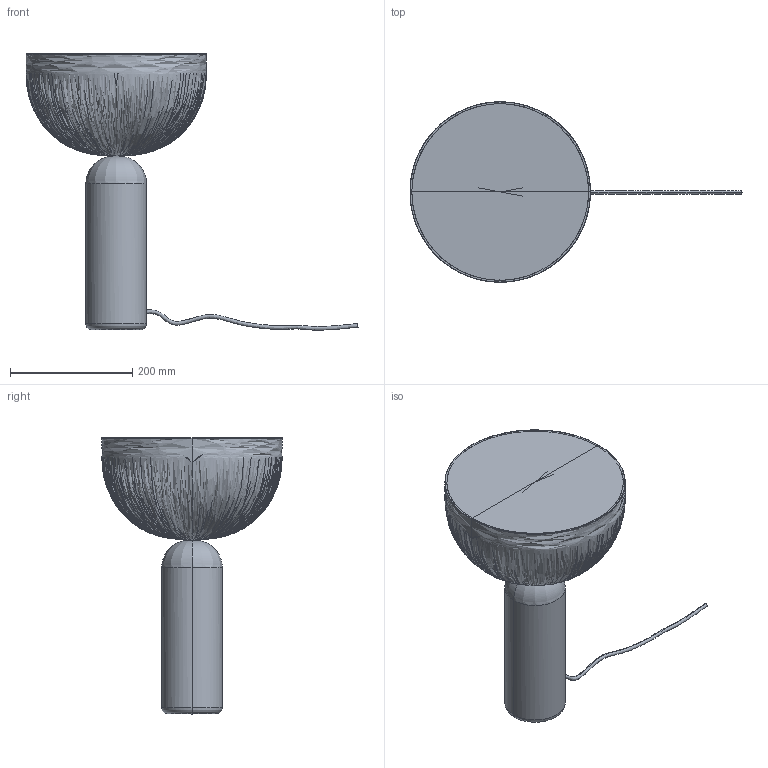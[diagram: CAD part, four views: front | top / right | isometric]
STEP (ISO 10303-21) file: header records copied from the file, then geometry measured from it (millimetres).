
FILE_DESCRIPTION(/* description */ (''),/* implementation_level */ '2;1');
FILE_NAME(/* name */ 'Kizu Table Lamp, New Works',/* time_stamp */ '2015-12-14T23:59:59+01:00',/* author */ (''),/* organization */ (''),/* preprocessor_version */ 'ST-DEVELOPER v15',/* originating_system */ '',/* authorisation */ '');
FILE_SCHEMA (('AUTOMOTIVE_DESIGN'));
Length unit declared in the file: millimetre
Products named in the file (1): Document
Bounding box: 542.1 x 294.54 x 451.33 mm (x, y, z)
Volume: 209418.1 mm3; surface area: 588809.1 mm2
Topology: 2 solids, 4 shells, 28 faces, 60 edges, 31 vertices
Faces by surface type: bspline 26, plane 2
Entity records: 5254 total; most frequent: CARTESIAN_POINT 4916, ORIENTED_EDGE 102, EDGE_CURVE 54, VERTEX_POINT 31, ADVANCED_FACE 28, FACE_OUTER_BOUND 28, EDGE_LOOP 28, B_SPLINE_CURVE_WITH_KNOTS 22
